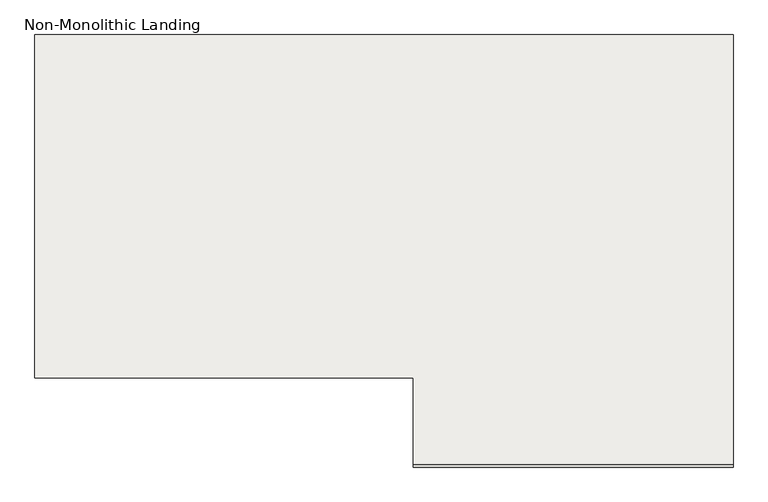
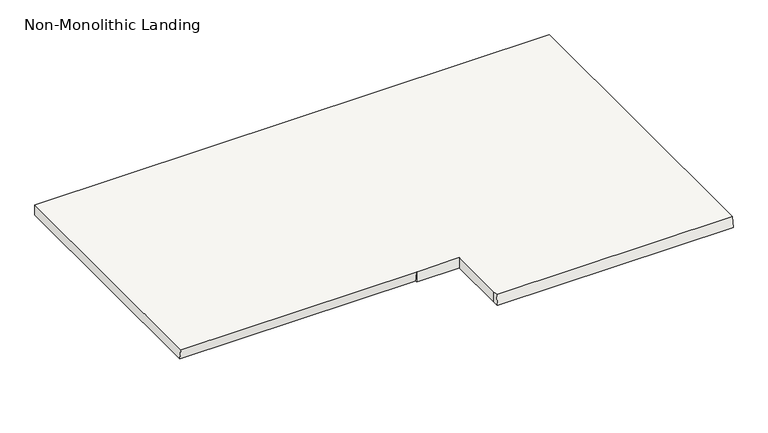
"""IFC4 building model written with IfcOpenShell, lengths in millimetres: slab geometry, Non-Monolithic Landing."""

from ifc_helpers import new_model, si_unit, origin, place, context, project, spatial, faceted_brep, source, transform, mapped, element, save


def non_monolithic_landing_49c053bb(model_context):
    return source(origin(), model_context, "Body", "Brep", [
        faceted_brep([(26061.8999097, 29598.5799804, 1900.0), (26261.8999097, 29598.5799804, 1900.0), (26261.8999097, 29323.5799804, 1900.0), (26261.8999097, 29298.5799804, 1900.0), (27361.8999097, 29298.5799804, 1900.0), (27361.8999097, 29323.5799804, 1900.0), (27361.8999097, 30778.5799804, 1900.0), (24961.8999097, 30778.5799804, 1900.0), (24961.8999097, 29598.5799804, 1900.0), (26261.8999097, 29598.5799804, 1850.0), (26061.8999097, 29598.5799804, 1850.0), (26061.8999097, 29605.8168225, 1850.0), (24961.8999097, 29605.8168225, 1850.0), (24961.8999097, 30778.5799804, 1850.0), (27361.8999097, 30778.5799804, 1850.0), (27361.8999097, 29323.5799804, 1850.0), (27361.8999097, 29291.3431383, 1850.0), (26261.8999097, 29291.3431383, 1850.0), (26261.8999097, 29323.5799804, 1850.0)], [[[0, 1, 2, 3, 4, 5, 6, 7, 8]], [[9, 10, 11, 12, 13, 14, 15, 16, 17, 18]], [[1, 0, 10, 9]], [[6, 5, 15, 14]], [[7, 6, 14, 13]], [[8, 7, 13, 12]], [[0, 11, 10]], [[11, 0, 8, 12]], [[3, 17, 16, 4]], [[2, 1, 9, 18]], [[3, 2, 18, 17]], [[5, 4, 16, 15]]]),
    ])


if __name__ == "__main__":
    model = new_model("IFC4")
    model_context = context("Model", 3, world=origin())
    ifc_project = project(units=[si_unit("LENGTHUNIT", "METRE", prefix="MILLI")], contexts=[model_context])
    site = spatial("IfcSite", under=ifc_project)
    building = spatial("IfcBuilding", under=site)
    placement = place(None, origin())
    non_monolithic_landing_shape = non_monolithic_landing_49c053bb(model_context)
    element("IfcSlab", 1, ObjectType="Non-Monolithic Landing", at=placement, inside=building, context=model_context, shape_type="MappedRepresentation", body=[
        mapped(non_monolithic_landing_shape, transform((0.0, 0.0, 0.0), x_axis=(1.0, 0.0, 0.0), y_axis=(0.0, 1.0, 0.0), z_axis=(0.0, 0.0, 1.0))),
    ])
    save(model, "model.ifc")
